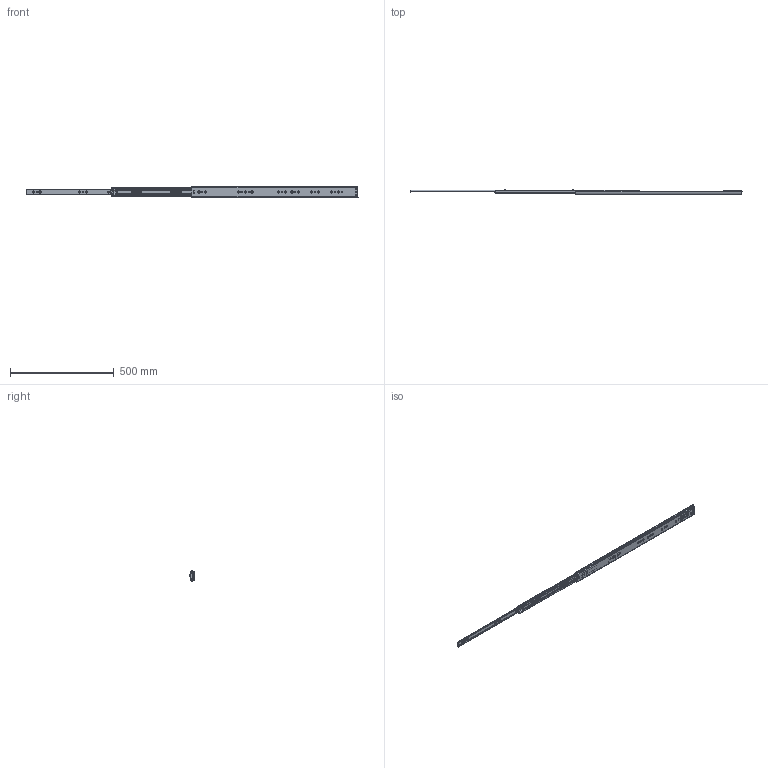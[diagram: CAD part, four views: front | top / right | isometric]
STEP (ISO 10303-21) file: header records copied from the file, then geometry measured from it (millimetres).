
FILE_DESCRIPTION((''),'2;1');
FILE_NAME('1053-HD-800_ASM','2023-11-18T',('jishu015'),(''),'PRO/ENGINEER BY PARAMETRIC TECHNOLOGY CORPORATION, 2010280','PRO/ENGINEER BY PARAMETRIC TECHNOLOGY CORPORATION, 2010280','');
FILE_SCHEMA(('CONFIG_CONTROL_DESIGN'));
Products named in the file (25): 1053-02-18WAIKE________________; MANIFOLD_SOLID_BREP_51_________; MANIFOLD_SOLID_BREP_52_________; MANIFOLD_SOLID_BREP_53_________; ADMI29141B9BC7PD_ASM__________ASM; ASM0001__________ASM; 53_ASM__________ASM; 1053-02-18XTPJG-DAZHUJIA2_; 1053-02-18XTPJG-5-6GANZHU12_; ZHONGGUIJIAO-11___________; 1053-02-18XTPJG-DAZHUJIA12__ASM; 1053-02-18WAIKE_________________ASM; 1053-02-18ZHONGGUI11__; 53ZHIDIJIAO________________; 3X6-MAODING_________; 1053-02-18ZHONGGUI11___ASM; 1053XIAOZHUJIA-14GE11___; 53-5-6GANZHU________________; 1053XIAOZHUJIA-14GE11____ASM; 1053-02-18NEIGUI12; 53BACHA_______________; XIAOMAODING_________; 3X4MAODING_________; 1053-02-18NEIGUI12_ASM; 1053-HD-800_ASM
Assembly tree (123 placements, depth 6):
  1053-HD-800_ASM
    1053-02-18WAIKE_________________ASM
      1053-02-18WAIKE________________
      53_ASM__________ASM
        ASM0001__________ASM
          ADMI29141B9BC7PD_ASM__________ASM
            MANIFOLD_SOLID_BREP_51_________
            MANIFOLD_SOLID_BREP_52_________
            MANIFOLD_SOLID_BREP_53_________
      1053-02-18XTPJG-DAZHUJIA12__ASM
        1053-02-18XTPJG-DAZHUJIA2_
        1053-02-18XTPJG-5-6GANZHU12_  x44
        ZHONGGUIJIAO-11___________  x2
    1053-02-18ZHONGGUI11___ASM
      1053-02-18ZHONGGUI11__
      53ZHIDIJIAO________________
      3X6-MAODING_________
    1053XIAOZHUJIA-14GE11____ASM
      1053XIAOZHUJIA-14GE11___
      53-5-6GANZHU________________  x56
    1053-02-18NEIGUI12_ASM
      1053-02-18NEIGUI12
      53BACHA_______________
      XIAOMAODING_________
      3X4MAODING_________
Bounding box: 1602.1 x 19.75 x 53 mm (x, y, z)
Volume: 303659.4 mm3; surface area: 374780.2 mm2
Topology: 115 solids, 115 shells, 4268 faces, 11933 edges, 7472 vertices
Faces by surface type: plane 1865, cylinder 1736, bspline 232, sphere 230, cone 143, torus 60, extrusion 2
Entity records: 150842 total; most frequent: CARTESIAN_POINT 47237, ORIENTED_EDGE 22188, DIRECTION 20875, EDGE_CURVE 11094, VERTEX_POINT 7150, AXIS2_PLACEMENT_3D 7119, VECTOR 6637, LINE 6635
